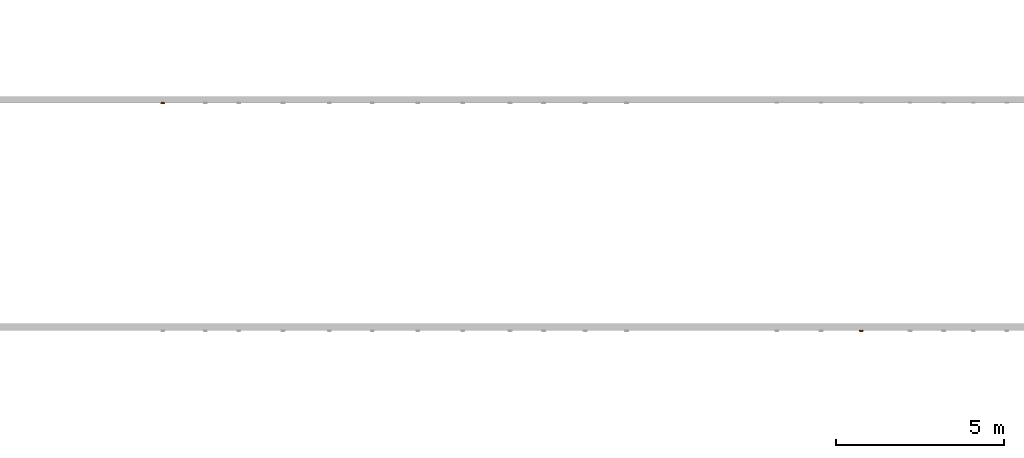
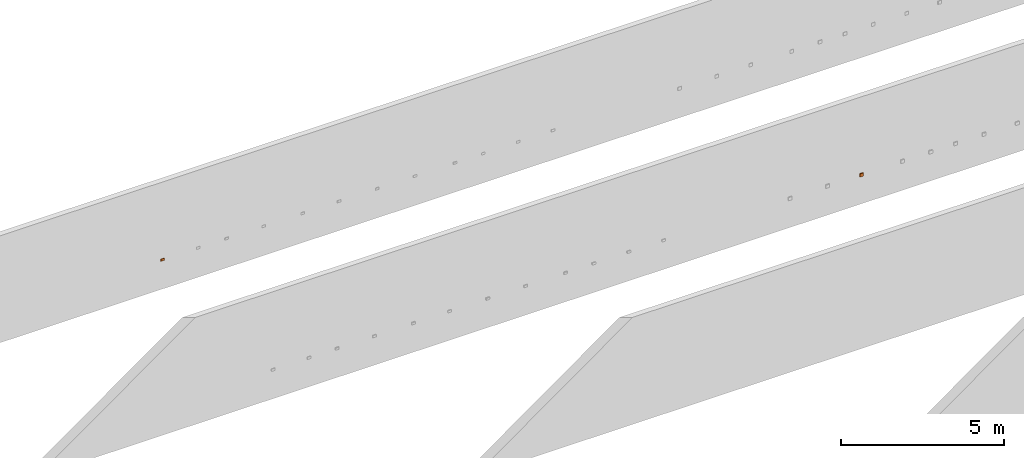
# One storey, part 143 of 197: 2 proxies.
"""IFC2X3 building model written with IfcOpenShell, lengths in metres."""

from ifc_helpers import new_model, entity, si_unit, converted_unit, direction, frame, origin, place, context, subcontext, project, spatial, faceted_brep, source, transform, mapped, material, material_list, type_object, type_shapes, element, save


model = new_model("IFC2X3")

# Units and contexts
model_context = context("Model", 3, precision=1e-05, world=origin(), true_north=direction((6.123031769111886e-17, 1.0)))
body_context = subcontext(model_context, "Body", "Model", "MODEL_VIEW")
ifc_project = project(units=[si_unit("LENGTHUNIT", "METRE"), converted_unit("PLANEANGLEUNIT", "DEGREE", entity("IfcPlaneAngleMeasure", 0.017453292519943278), si_unit("PLANEANGLEUNIT", "RADIAN"), dimensions=[0, 0, 0, 0, 0, 0, 0]), si_unit("AREAUNIT", "SQUARE_METRE")], contexts=[model_context])

# Site, building, storey
site_placement = place(None, origin())
site = spatial("IfcSite", under=ifc_project, at=site_placement, Name="Default", CompositionType="ELEMENT")
building_placement = place(site_placement, origin())
building = spatial("IfcBuilding", under=site, at=building_placement, CompositionType="ELEMENT")
storey_placement = place(building_placement, origin())
storey = spatial("IfcBuildingStorey", under=building, at=storey_placement, Name="Niveau 0", CompositionType="ELEMENT", Elevation=0.0)

# Proxies
ifc_material_1 = material(Name="<Unnamed>")
ifc_material_2 = material(Name="BETCE-DOIGT-BLANC")
ifc_material_3 = material(Name="BETCE-ENJOLIVEUR-BLANC")
ifc_material_list_1 = material_list([ifc_material_1, ifc_material_2, ifc_material_3])
building_element_proxy_type_1 = type_object("IfcBuildingElementProxyType", Name="Tableau commande 1x4 modules encastré:4 BP", PredefinedType="NOTDEFINED", material=ifc_material_list_1)
shared_shape_1 = source(origin(), body_context, "Body", "Brep", [
    faceted_brep([(0.04499999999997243, 0.0, 0.022499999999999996), (0.04499999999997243, 0.03499999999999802, 0.022499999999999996), (0.02249999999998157, 0.03499999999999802, 0.022499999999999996), (0.02249999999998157, 0.0, 0.022499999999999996), (0.04499999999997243, 0.0, -0.022500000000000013), (0.02249999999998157, 0.0, -0.022500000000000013), (0.02249999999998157, 0.03499999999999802, -0.022500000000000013), (0.04499999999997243, 0.03499999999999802, -0.022500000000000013)], [[[0, 1, 2, 3]], [[4, 5, 6, 7]], [[1, 0, 4, 7]], [[2, 1, 7, 6]], [[3, 2, 6, 5]], [[0, 3, 5, 4]]]),
    faceted_brep([(0.02249999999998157, 0.0, 0.022499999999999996), (0.02249999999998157, 0.034999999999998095, 0.022499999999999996), (0.0, 0.034999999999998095, 0.022499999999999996), (0.0, 0.0, 0.022499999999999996), (0.02249999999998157, 0.0, -0.022500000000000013), (0.0, 0.0, -0.022500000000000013), (0.0, 0.034999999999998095, -0.022500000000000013), (0.02249999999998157, 0.034999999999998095, -0.022500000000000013)], [[[0, 1, 2, 3]], [[4, 5, 6, 7]], [[1, 0, 4, 7]], [[2, 1, 7, 6]], [[3, 2, 6, 5]], [[0, 3, 5, 4]]]),
    faceted_brep([(0.0, 0.0, 0.022499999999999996), (0.0, 0.034999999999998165, 0.022499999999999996), (-0.02250000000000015, 0.034999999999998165, 0.022499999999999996), (-0.02250000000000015, 0.0, 0.022499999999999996), (0.0, 0.0, -0.022500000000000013), (-0.02250000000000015, 0.0, -0.022500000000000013), (-0.02250000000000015, 0.034999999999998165, -0.022500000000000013), (0.0, 0.034999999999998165, -0.022500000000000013)], [[[0, 1, 2, 3]], [[4, 5, 6, 7]], [[1, 0, 4, 7]], [[2, 1, 7, 6]], [[3, 2, 6, 5]], [[0, 3, 5, 4]]]),
    faceted_brep([(-0.02250000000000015, 0.0, 0.022499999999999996), (-0.02250000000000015, 0.034999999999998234, 0.022499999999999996), (-0.044999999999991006, 0.034999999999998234, 0.022499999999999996), (-0.044999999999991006, 0.0, 0.022499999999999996), (-0.02250000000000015, 0.0, -0.022500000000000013), (-0.044999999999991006, 0.0, -0.022500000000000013), (-0.044999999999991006, 0.034999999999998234, -0.022500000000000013), (-0.02250000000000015, 0.034999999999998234, -0.022500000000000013)], [[[0, 1, 2, 3]], [[4, 5, 6, 7]], [[1, 0, 4, 7]], [[2, 1, 7, 6]], [[3, 2, 6, 5]], [[0, 3, 5, 4]]]),
    faceted_brep([(0.022500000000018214, -0.010500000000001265, 0.022499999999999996), (0.02250000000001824, -0.015000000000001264, -0.022500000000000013), (0.0450000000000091, -0.01500000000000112, -0.022500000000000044), (0.045000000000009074, -0.010500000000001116, 0.022499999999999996), (0.02250000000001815, 0.0, -0.022500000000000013), (0.02250000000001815, 0.0, 0.022499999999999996), (0.045000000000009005, 0.0, 0.022499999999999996), (0.045000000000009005, 0.0, -0.022500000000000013)], [[[0, 1, 2, 3]], [[4, 5, 6, 7]], [[5, 4, 1, 0]], [[6, 5, 0, 3]], [[7, 6, 3, 2]], [[4, 7, 2, 1]]]),
    faceted_brep([(-0.044999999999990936, -0.010500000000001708, 0.022500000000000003), (-0.044999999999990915, -0.015000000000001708, -0.022500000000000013), (-0.022500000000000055, -0.015000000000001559, -0.022499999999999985), (-0.022500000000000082, -0.01050000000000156, 0.022499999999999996), (-0.044999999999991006, 0.0, -0.022500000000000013), (-0.044999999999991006, 0.0, 0.022499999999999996), (-0.02250000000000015, 0.0, 0.022499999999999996), (-0.02250000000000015, 0.0, -0.022500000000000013)], [[[0, 1, 2, 3]], [[4, 5, 6, 7]], [[5, 4, 1, 0]], [[6, 5, 0, 3]], [[7, 6, 3, 2]], [[4, 7, 2, 1]]]),
    faceted_brep([(0.0, -0.010500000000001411, 0.022500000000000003), (0.0, -0.015000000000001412, -0.022500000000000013), (0.022499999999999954, -0.015000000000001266, -0.022500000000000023), (0.022499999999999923, -0.010500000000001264, 0.022499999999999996), (0.0, 0.0, -0.022500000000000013), (0.0, 0.0, 0.022499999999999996), (0.02249999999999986, 0.0, 0.022499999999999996), (0.02249999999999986, 0.0, -0.022500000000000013)], [[[0, 1, 2, 3]], [[4, 5, 6, 7]], [[5, 4, 1, 0]], [[6, 5, 0, 3]], [[7, 6, 3, 2]], [[4, 7, 2, 1]]]),
    faceted_brep([(-0.02250000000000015, 0.0, -0.022500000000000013), (-0.02250000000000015, 0.0, 0.022499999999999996), (0.0, 0.0, 0.022499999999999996), (0.0, 0.0, -0.022500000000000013), (-0.022500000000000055, -0.01500000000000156, -0.022500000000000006), (-0.022500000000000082, -0.010500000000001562, 0.022499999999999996), (0.0, -0.010500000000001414, 0.022499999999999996), (0.0, -0.015000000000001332, -0.022500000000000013)], [[[0, 1, 2, 3]], [[1, 0, 4, 5]], [[2, 1, 5, 6]], [[3, 2, 6, 7]], [[0, 3, 7, 4]], [[5, 4, 7, 6]]]),
    faceted_brep([(0.06350000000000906, -0.009000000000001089, -0.03299999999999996), (0.06350000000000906, -0.009000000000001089, 0.031999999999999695), (0.045000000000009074, -0.009000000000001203, -0.022500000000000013), (0.055500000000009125, -0.009000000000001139, -0.04099999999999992), (0.05757055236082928, -0.009000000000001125, -0.04072740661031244), (0.059500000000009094, -0.009000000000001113, -0.0399282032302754), (0.061156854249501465, -0.009000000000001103, -0.03865685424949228), (0.06322740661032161, -0.00900000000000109, -0.03507055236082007), (0.04500000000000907, -0.009000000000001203, 0.022499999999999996), (-0.04499999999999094, -0.009000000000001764, 0.022499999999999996), (-0.011124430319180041, -0.009000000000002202, 0.03199999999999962), (-0.06349999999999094, -0.009000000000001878, 0.031999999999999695), (-0.04499999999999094, -0.009000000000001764, -0.022500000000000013), (-0.06349999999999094, -0.009000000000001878, -0.032999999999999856), (-0.055499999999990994, -0.00900000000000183, -0.04099999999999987), (-0.05757055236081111, -0.009000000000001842, -0.040727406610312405), (-0.059499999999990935, -0.009000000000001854, -0.039928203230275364), (-0.06115685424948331, -0.009000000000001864, -0.038656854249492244), (-0.06322740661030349, -0.009000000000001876, -0.035070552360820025), (-0.06242820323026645, -0.009000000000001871, -0.03699999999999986), (0.062428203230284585, -0.009000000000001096, -0.036999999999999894), (-0.063499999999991, 0.0, -0.03299999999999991), (-0.063499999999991, 0.0, 0.04100000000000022), (-0.044999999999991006, 0.0, 0.022499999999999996), (-0.044999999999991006, 0.0, -0.022500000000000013), (-0.05549999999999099, 0.0, -0.04099999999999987), (-0.05757055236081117, 0.0, -0.040727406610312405), (-0.05949999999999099, 0.0, -0.039928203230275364), (-0.06322740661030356, 0.0, -0.035070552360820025), (0.045000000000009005, 0.0, 0.022499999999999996), (0.011124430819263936, 0.0, 0.041000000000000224), (0.063500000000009, 0.0, 0.041000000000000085), (0.06350000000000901, 0.0, -0.03299999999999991), (0.04500000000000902, 0.0, -0.022500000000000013), (0.05550000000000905, 0.0, -0.040999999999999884), (0.057570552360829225, 0.0, -0.04072740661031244), (0.05950000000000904, 0.0, -0.0399282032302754), (0.06322740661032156, 0.0, -0.03507055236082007), (0.06115685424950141, 0.0, -0.03865685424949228), (0.06242820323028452, 0.0, -0.036999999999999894), (-0.06115685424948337, 0.0, -0.038656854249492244), (-0.062428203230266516, 0.0, -0.03699999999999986), (0.06350000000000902, -0.002329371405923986, 0.04069333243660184), (0.06350000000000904, -0.004500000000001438, 0.03979422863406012), (0.06350000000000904, -0.006363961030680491, 0.038363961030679), (0.06350000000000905, -0.007794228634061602, 0.03649999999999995), (0.06350000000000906, -0.008693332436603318, 0.0343293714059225), (-0.06349999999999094, -0.008693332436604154, 0.03432937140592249), (-0.06349999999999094, -0.0077942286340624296, 0.03649999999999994), (-0.06349999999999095, -0.006363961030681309, 0.038363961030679), (-0.06349999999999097, -0.004500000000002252, 0.039794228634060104), (-0.06349999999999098, -0.002329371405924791, 0.04069333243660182), (-0.010857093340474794, -0.006120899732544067, 0.03859807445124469)], [[[0, 1, 2]], [[3, 0, 2]], [[0, 3, 4]], [[0, 4, 5]], [[5, 6, 0]], [[7, 0, 6]], [[2, 1, 8]], [[1, 9, 8]], [[9, 1, 10]], [[9, 10, 11]], [[12, 9, 11]], [[13, 12, 11]], [[14, 12, 13]], [[14, 13, 15]], [[16, 15, 13]], [[13, 17, 16]], [[17, 13, 18]], [[17, 18, 19]], [[12, 14, 3]], [[2, 12, 3]], [[20, 7, 6]], [[21, 22, 23]], [[24, 21, 23]], [[25, 21, 24]], [[21, 25, 26]], [[21, 26, 27]], [[28, 21, 27]], [[22, 29, 23]], [[29, 22, 30]], [[29, 30, 31]], [[32, 29, 31]], [[33, 29, 32]], [[34, 33, 32]], [[34, 32, 35]], [[36, 35, 32]], [[36, 32, 37]], [[37, 38, 36]], [[38, 37, 39]], [[33, 34, 25]], [[24, 33, 25]], [[27, 40, 28]], [[41, 28, 40]], [[1, 0, 32, 31, 42, 43, 44, 45, 46]], [[37, 32, 0, 7]], [[39, 37, 7, 20]], [[38, 39, 20, 6]], [[36, 38, 6, 5]], [[35, 36, 5, 4]], [[34, 35, 4, 3]], [[25, 34, 3, 14]], [[26, 25, 14, 15]], [[27, 26, 15, 16]], [[40, 27, 16, 17]], [[41, 40, 17, 19]], [[28, 41, 19, 18]], [[21, 28, 18, 13]], [[22, 21, 13, 11, 47, 48, 49, 50, 51]], [[24, 23, 9, 12]], [[33, 24, 12, 2]], [[29, 33, 2, 8]], [[23, 29, 8, 9]], [[52, 10, 45]], [[47, 11, 10]], [[1, 46, 10]], [[44, 52, 45]], [[46, 45, 10]], [[50, 52, 51]], [[48, 47, 10]], [[30, 52, 43]], [[48, 52, 49]], [[42, 31, 30]], [[30, 22, 51]], [[48, 10, 52]], [[30, 43, 42]], [[44, 43, 52]], [[52, 50, 49]], [[52, 30, 51]]]),
])
type_shapes(building_element_proxy_type_1, [shared_shape_1])
proxy_1_placement = place(storey_placement, frame((-384.79277966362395, 122.781355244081, 1.1)))
element("IfcBuildingElementProxy", 1, at=proxy_1_placement, inside=storey, type_object=building_element_proxy_type_1, material=ifc_material_list_1, Name="Tableau commande 1x4 modules encastré:4 BP", ObjectType="Tableau commande 1x4 modules encastré:4 BP", context=body_context, shape_type="MappedRepresentation", body=[
    mapped(shared_shape_1, transform((0.0, 0.0, 0.0), scale=1.0)),
])
ifc_material_4 = material(Name="BETCE-CADRE-BLANC")
ifc_material_list_2 = material_list([ifc_material_4, ifc_material_2, ifc_material_3])
building_element_proxy_type_2 = type_object("IfcBuildingElementProxyType", Name="Tableau commande 2x4 modules saillie:8 VV", PredefinedType="NOTDEFINED", material=ifc_material_list_2)
shared_shape_2 = source(origin(), body_context, "Body", "Brep", [
    faceted_brep([(0.06349999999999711, -0.022999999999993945, 0.0635), (-0.06350000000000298, -0.022999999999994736, 0.0635), (-0.06350000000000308, -0.022999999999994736, -0.055499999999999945), (-0.06322740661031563, -0.022999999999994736, -0.05757055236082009), (-0.06242820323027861, -0.02299999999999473, -0.059499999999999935), (-0.06115685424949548, -0.022999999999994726, -0.06115685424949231), (-0.05950000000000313, -0.022999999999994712, -0.06242820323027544), (-0.05757055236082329, -0.0229999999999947, -0.06322740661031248), (-0.05550000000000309, -0.022999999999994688, -0.06350000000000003), (0.055499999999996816, -0.022999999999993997, -0.0635000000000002), (0.057570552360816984, -0.022999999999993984, -0.06322740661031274), (0.05949999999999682, -0.022999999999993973, -0.062428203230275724), (0.06115685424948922, -0.022999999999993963, -0.061156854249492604), (0.062428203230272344, -0.022999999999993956, -0.05950000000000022), (0.0632274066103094, -0.022999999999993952, -0.0575705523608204), (0.06349999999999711, -0.022999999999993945, -0.05550000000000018), (-0.05550000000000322, 0.0, -0.06349999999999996), (-0.05757055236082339, 0.0, -0.06322740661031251), (-0.05950000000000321, 0.0, -0.062428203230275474), (-0.06115685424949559, 0.0, -0.06115685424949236), (-0.06242820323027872, 0.0, -0.05949999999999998), (-0.06322740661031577, 0.0, -0.05757055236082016), (-0.06350000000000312, 0.0, -0.055499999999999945), (-0.06350000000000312, 0.0, 0.0635), (0.06349999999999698, 0.0, 0.0635), (0.06349999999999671, 0.0, -0.05550000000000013), (0.06322740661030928, 0.0, -0.0575705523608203), (0.06242820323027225, 0.0, -0.05950000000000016), (0.06115685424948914, 0.0, -0.061156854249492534), (0.059499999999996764, 0.0, -0.062428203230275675), (0.05757055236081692, 0.0, -0.06322740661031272), (0.055499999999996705, 0.0, -0.0635)], [[[0, 1, 2, 3, 4, 5, 6, 7, 8, 9, 10, 11, 12, 13, 14, 15]], [[16, 17, 18, 19, 20, 21, 22, 23, 24, 25, 26, 27, 28, 29, 30, 31]], [[2, 1, 23, 22]], [[9, 8, 16, 31]], [[0, 15, 25, 24]], [[1, 0, 24, 23]], [[25, 15, 14, 26]], [[26, 14, 13, 27]], [[27, 13, 12, 28]], [[29, 11, 10, 30]], [[30, 10, 9, 31]], [[28, 12, 11, 29]], [[17, 16, 8, 7]], [[18, 17, 7, 6]], [[19, 18, 6, 5]], [[20, 19, 5, 4]], [[21, 20, 4, 3]], [[22, 21, 3, 2]]]),
    faceted_brep([(0.022499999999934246, -0.022999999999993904, -0.045000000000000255), (0.022499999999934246, -0.022999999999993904, 0.0), (0.04499999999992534, -0.022999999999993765, 0.0), (0.04499999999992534, -0.022999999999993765, -0.045000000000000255), (0.022499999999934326, -0.03574999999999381, -0.045000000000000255), (0.02249999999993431, -0.033499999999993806, 0.0), (0.044999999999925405, -0.03349999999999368, 0.0), (0.04499999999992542, -0.03574999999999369, -0.045000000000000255)], [[[0, 1, 2, 3]], [[1, 0, 4, 5]], [[2, 1, 5, 6]], [[3, 2, 6, 7]], [[0, 3, 7, 4]], [[5, 4, 7, 6]]]),
    faceted_brep([(0.0, -0.022999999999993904, -0.04500000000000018), (0.0, -0.022999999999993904, 0.0), (0.02249999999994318, -0.022999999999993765, 0.0), (0.02249999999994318, -0.022999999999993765, -0.04500000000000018), (0.0, -0.03574999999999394, -0.04500000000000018), (0.0, -0.03349999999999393, 0.0), (0.022499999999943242, -0.033499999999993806, 0.0), (0.02249999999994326, -0.03574999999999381, -0.04500000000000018)], [[[0, 1, 2, 3]], [[1, 0, 4, 5]], [[2, 1, 5, 6]], [[3, 2, 6, 7]], [[0, 3, 7, 4]], [[5, 4, 7, 6]]]),
    faceted_brep([(-0.02250000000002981, -0.022999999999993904, -0.0450000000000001), (-0.02250000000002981, -0.022999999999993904, 0.0), (0.0, -0.022999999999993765, 0.0), (0.0, -0.022999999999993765, -0.0450000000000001), (-0.02250000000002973, -0.03574999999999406, -0.0450000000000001), (-0.022500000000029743, -0.03349999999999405, 0.0), (0.0, -0.033499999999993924, 0.0), (0.0, -0.03574999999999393, -0.0450000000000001)], [[[0, 1, 2, 3]], [[1, 0, 4, 5]], [[2, 1, 5, 6]], [[3, 2, 6, 7]], [[0, 3, 7, 4]], [[5, 4, 7, 6]]]),
    faceted_brep([(-0.04500000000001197, -0.022999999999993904, -0.045000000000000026), (-0.04500000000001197, -0.022999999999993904, 0.0), (-0.022500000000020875, -0.022999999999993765, 0.0), (-0.022500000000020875, -0.022999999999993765, -0.045000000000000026), (-0.04500000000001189, -0.03574999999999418, -0.045000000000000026), (-0.0450000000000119, -0.03349999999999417, 0.0), (-0.02250000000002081, -0.03349999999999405, 0.0), (-0.022500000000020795, -0.03574999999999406, -0.045000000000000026)], [[[0, 1, 2, 3]], [[1, 0, 4, 5]], [[2, 1, 5, 6]], [[3, 2, 6, 7]], [[0, 3, 7, 4]], [[5, 4, 7, 6]]]),
    faceted_brep([(0.02249999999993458, -0.03349999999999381, 0.04499999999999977), (0.022499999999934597, -0.03574999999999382, 0.0), (0.04499999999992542, -0.0357499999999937, 0.0), (0.044999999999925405, -0.03349999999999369, 0.04499999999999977), (0.022499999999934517, -0.022999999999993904, 0.0), (0.022499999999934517, -0.022999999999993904, 0.04499999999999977), (0.04499999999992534, -0.022999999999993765, 0.04499999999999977), (0.04499999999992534, -0.022999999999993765, 0.0)], [[[0, 1, 2, 3]], [[4, 5, 6, 7]], [[5, 4, 1, 0]], [[6, 5, 0, 3]], [[7, 6, 3, 2]], [[4, 7, 2, 1]]]),
    faceted_brep([(0.0, -0.03349999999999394, 0.044999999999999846), (0.0, -0.035749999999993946, 0.0), (0.02249999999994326, -0.03574999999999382, 0.0), (0.022499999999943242, -0.03349999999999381, 0.044999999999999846), (0.0, -0.022999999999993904, 0.0), (0.0, -0.022999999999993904, 0.044999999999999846), (0.02249999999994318, -0.022999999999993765, 0.04499999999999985), (0.02249999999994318, -0.022999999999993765, 0.0)], [[[0, 1, 2, 3]], [[4, 5, 6, 7]], [[5, 4, 1, 0]], [[6, 5, 0, 3]], [[7, 6, 3, 2]], [[4, 7, 2, 1]]]),
    faceted_brep([(-0.022500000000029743, -0.03349999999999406, 0.04499999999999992), (-0.02250000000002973, -0.03574999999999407, 0.0), (0.0, -0.03574999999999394, 0.0), (0.0, -0.03349999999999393, 0.04499999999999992), (-0.02250000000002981, -0.022999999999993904, 0.0), (-0.02250000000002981, -0.022999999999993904, 0.04499999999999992), (0.0, -0.022999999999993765, 0.04499999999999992), (0.0, -0.022999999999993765, 0.0)], [[[0, 1, 2, 3]], [[4, 5, 6, 7]], [[5, 4, 1, 0]], [[6, 5, 0, 3]], [[7, 6, 3, 2]], [[4, 7, 2, 1]]]),
    faceted_brep([(-0.04500000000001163, -0.03349999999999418, 0.045), (-0.045000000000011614, -0.03574999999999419, 0.0), (-0.022500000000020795, -0.035749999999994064, 0.0), (-0.02250000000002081, -0.03349999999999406, 0.045), (-0.0450000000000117, -0.022999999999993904, 0.0), (-0.0450000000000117, -0.022999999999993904, 0.045), (-0.022500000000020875, -0.022999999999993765, 0.045000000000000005), (-0.022500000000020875, -0.022999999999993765, 0.0)], [[[0, 1, 2, 3]], [[4, 5, 6, 7]], [[5, 4, 1, 0]], [[6, 5, 0, 3]], [[7, 6, 3, 2]], [[4, 7, 2, 1]]]),
    faceted_brep([(0.06349999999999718, -0.03199999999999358, -0.055500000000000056), (0.063499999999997, -0.03199999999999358, 0.05450000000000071), (0.04499999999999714, -0.03199999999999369, -0.045000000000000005), (0.05549999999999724, -0.03199999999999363, -0.06350000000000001), (0.057570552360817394, -0.03199999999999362, -0.06322740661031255), (0.06322740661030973, -0.03199999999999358, -0.05757055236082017), (0.04499999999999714, -0.03199999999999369, 0.045), (-0.04500000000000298, -0.031999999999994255, 0.045000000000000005), (-0.011124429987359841, -0.03199999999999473, 0.054500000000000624), (-0.06350000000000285, -0.03199999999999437, 0.05450000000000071), (-0.04500000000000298, -0.031999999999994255, -0.045000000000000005), (-0.06350000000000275, -0.03199999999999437, -0.05550000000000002), (-0.05550000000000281, -0.03199999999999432, -0.06350000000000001), (-0.05757055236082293, -0.03199999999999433, -0.06322740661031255), (-0.06322740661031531, -0.031999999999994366, -0.05757055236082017), (-0.05950000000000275, -0.031999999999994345, -0.062428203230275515), (-0.06242820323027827, -0.03199999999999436, -0.05950000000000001), (-0.06115685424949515, -0.03199999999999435, -0.06115685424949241), (0.05949999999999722, -0.0319999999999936, -0.062428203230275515), (0.062428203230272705, -0.03199999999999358, -0.05949999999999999), (0.06115685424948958, -0.031999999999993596, -0.061156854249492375), (-0.06350000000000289, -0.02299999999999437, -0.05550000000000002), (-0.06350000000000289, -0.02299999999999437, 0.06350000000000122), (-0.04500000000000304, -0.02299999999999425, 0.045000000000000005), (-0.04500000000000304, -0.02299999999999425, -0.045000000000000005), (-0.05550000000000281, -0.02299999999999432, -0.06350000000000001), (-0.06322740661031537, -0.022999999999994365, -0.05757055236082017), (0.04499999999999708, -0.022999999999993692, 0.045000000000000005), (0.011124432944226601, -0.022999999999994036, 0.06350000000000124), (0.06349999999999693, -0.022999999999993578, 0.0635), (0.06349999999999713, -0.022999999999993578, -0.05550000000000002), (0.04499999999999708, -0.022999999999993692, -0.045000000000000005), (0.05549999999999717, -0.02299999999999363, -0.06350000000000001), (0.06322740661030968, -0.022999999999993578, -0.05757055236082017), (0.05757055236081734, -0.022999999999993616, -0.06322740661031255), (0.06242820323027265, -0.022999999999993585, -0.05949999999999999), (0.05949999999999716, -0.022999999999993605, -0.062428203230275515), (0.06115685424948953, -0.02299999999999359, -0.061156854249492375), (-0.05757055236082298, -0.02299999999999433, -0.06322740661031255), (-0.062428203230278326, -0.022999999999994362, -0.05950000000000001), (-0.05950000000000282, -0.022999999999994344, -0.062428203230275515), (-0.0611568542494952, -0.02299999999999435, -0.06115685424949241), (0.06349999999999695, -0.025329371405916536, 0.06319333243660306), (0.06349999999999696, -0.02749999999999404, 0.06229422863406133), (0.06349999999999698, -0.029363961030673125, 0.060863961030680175), (0.06349999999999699, -0.03079422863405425, 0.05900000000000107), (0.06349999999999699, -0.03169333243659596, 0.05682937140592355), (-0.06350000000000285, -0.03169333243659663, 0.0568293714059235), (-0.06350000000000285, -0.030794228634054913, 0.059000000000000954), (-0.06350000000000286, -0.029363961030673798, 0.06086396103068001), (-0.06350000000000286, -0.027499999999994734, 0.062294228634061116), (-0.06350000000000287, -0.025329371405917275, 0.06319333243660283), (-0.010857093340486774, -0.029120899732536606, 0.06109807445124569)], [[[0, 1, 2]], [[3, 0, 2]], [[0, 3, 4]], [[5, 0, 4]], [[2, 1, 6]], [[1, 7, 6]], [[7, 1, 8]], [[7, 8, 9]], [[10, 7, 9]], [[11, 10, 9]], [[12, 10, 11]], [[12, 11, 13]], [[13, 11, 14]], [[15, 13, 14]], [[16, 15, 14]], [[15, 16, 17]], [[10, 12, 3]], [[2, 10, 3]], [[5, 4, 18]], [[5, 18, 19]], [[20, 19, 18]], [[21, 22, 23]], [[24, 21, 23]], [[25, 21, 24]], [[26, 21, 25]], [[22, 27, 23]], [[27, 22, 28]], [[27, 28, 29]], [[30, 27, 29]], [[31, 27, 30]], [[32, 31, 30]], [[32, 30, 33]], [[32, 33, 34]], [[33, 35, 34]], [[35, 36, 34]], [[36, 35, 37]], [[31, 32, 25]], [[26, 25, 38]], [[24, 31, 25]], [[39, 26, 38]], [[39, 38, 40]], [[41, 39, 40]], [[1, 0, 30, 29, 42, 43, 44, 45, 46]], [[33, 30, 0, 5]], [[35, 33, 5, 19]], [[37, 35, 19, 20]], [[36, 37, 20, 18]], [[34, 36, 18, 4]], [[32, 34, 4, 3]], [[25, 32, 3, 12]], [[38, 25, 12, 13]], [[40, 38, 13, 15]], [[41, 40, 15, 17]], [[39, 41, 17, 16]], [[26, 39, 16, 14]], [[21, 26, 14, 11]], [[22, 21, 11, 9, 47, 48, 49, 50, 51]], [[24, 23, 7, 10]], [[31, 24, 10, 2]], [[27, 31, 2, 6]], [[23, 27, 6, 7]], [[52, 8, 45]], [[47, 9, 8]], [[1, 46, 8]], [[44, 52, 45]], [[46, 45, 8]], [[50, 52, 51]], [[48, 47, 8]], [[28, 52, 43]], [[48, 52, 49]], [[42, 29, 28]], [[28, 22, 51]], [[48, 8, 52]], [[28, 43, 42]], [[44, 43, 52]], [[52, 50, 49]], [[52, 28, 51]]]),
])
type_shapes(building_element_proxy_type_2, [shared_shape_2])
proxy_2_placement = place(storey_placement, frame((-363.9867796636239, 116.01635778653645, 1.1)))
element("IfcBuildingElementProxy", 2, at=proxy_2_placement, inside=storey, type_object=building_element_proxy_type_2, material=ifc_material_list_2, Name="Tableau commande 2x4 modules saillie:8 VV", ObjectType="Tableau commande 2x4 modules saillie:8 VV", context=body_context, shape_type="MappedRepresentation", body=[
    mapped(shared_shape_2, transform((0.0, 0.0, 0.0), scale=1.0)),
])

save(model, "model.ifc")
